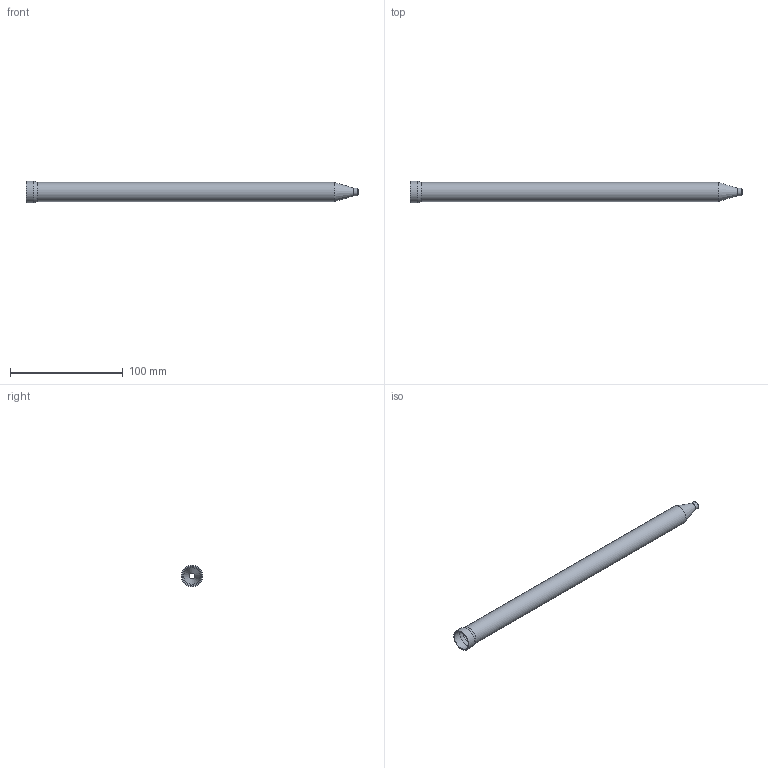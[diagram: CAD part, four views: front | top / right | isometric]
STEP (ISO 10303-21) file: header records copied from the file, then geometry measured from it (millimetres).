
FILE_DESCRIPTION (( 'STEP AP214' ), '1' );
FILE_NAME ('Mixer 13-24.STEP', '2024-10-11T14:43:34', ( '' ), ( '' ), 'SwSTEP 2.0', 'SolidWorks 2024', '' );
FILE_SCHEMA (( 'AUTOMOTIVE_DESIGN' ));
Length unit declared in the file: millimetre
Products named in the file (1): Mixer 13-24
Bounding box: 295 x 19.2 x 19.2 mm (x, y, z)
Volume: 14520.7 mm3; surface area: 29115.6 mm2
Topology: 1 solids, 1 shells, 13 faces, 24 edges, 13 vertices
Faces by surface type: cylinder 6, cone 5, plane 2
Full cylindrical faces by diameter (mm): 4.9 x1, 6.9 x1, 15 x1, 17 x1, 17.2 x1, 19.2 x1
Entity records: 291 total; most frequent: DIRECTION 54, CARTESIAN_POINT 40, AXIS2_PLACEMENT_3D 27, EDGE_LOOP 26, ORIENTED_EDGE 26, FACE_OUTER_BOUND 19, CIRCLE 13, EDGE_CURVE 13
